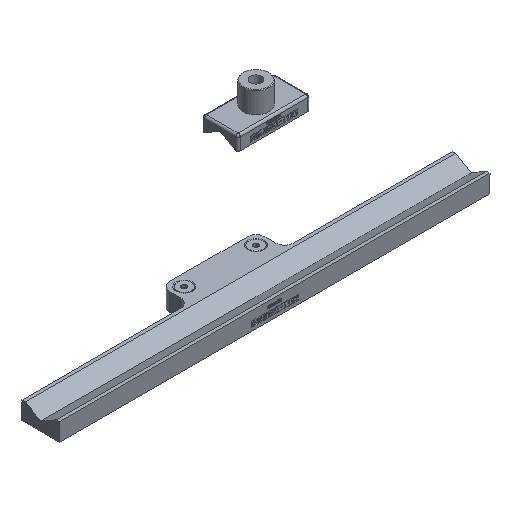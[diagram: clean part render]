
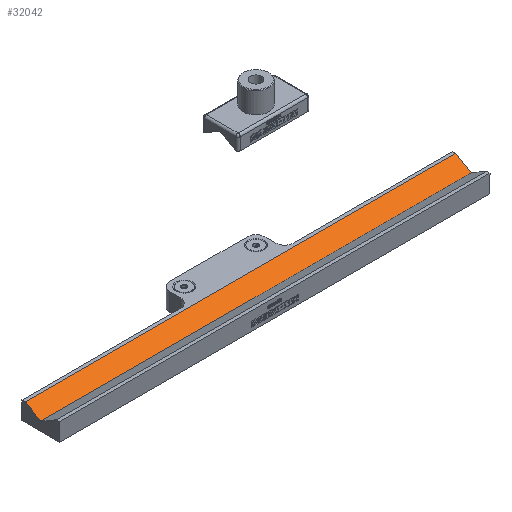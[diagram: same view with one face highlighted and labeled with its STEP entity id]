
A CAD part, isometric view. The second image highlights one B-rep face of the part: STEP entity #32042.
In plain terms, the highlighted planar face has unit normal (0, -0.5, 0.866).
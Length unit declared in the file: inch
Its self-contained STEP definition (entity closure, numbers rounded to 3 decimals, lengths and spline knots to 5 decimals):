
#31744=CARTESIAN_POINT('',(21.54295,-9.89958,-25.74325));
#31745=VERTEX_POINT('',#31744);
#31752=CARTESIAN_POINT('',(33.54295,-9.89958,-25.74325));
#31753=VERTEX_POINT('',#31752);
#31754=CARTESIAN_POINT('',(21.54295,-9.89958,-25.74325));
#31755=DIRECTION('',(1.0,0.0,0.0));
#31756=VECTOR('',#31755,12.);
#31757=LINE('',#31754,#31756);
#31758=EDGE_CURVE('',#31745,#31753,#31757,.T.);
#32012=CARTESIAN_POINT('',(21.54295,-10.3326,-25.99325));
#32013=DIRECTION('',(0.,0.5,-0.866));
#32014=DIRECTION('',(-1.0,0.0,0.0));
#32015=AXIS2_PLACEMENT_3D('',#32012,#32013,#32014);
#32016=PLANE('',#32015);
#32017=CARTESIAN_POINT('',(33.54295,-10.3326,-25.99325));
#32018=VERTEX_POINT('',#32017);
#32019=CARTESIAN_POINT('',(33.54295,-10.3326,-25.99325));
#32020=DIRECTION('',(0.0,0.866,0.5));
#32021=VECTOR('',#32020,0.5);
#32022=LINE('',#32019,#32021);
#32023=EDGE_CURVE('',#32018,#31753,#32022,.T.);
#32024=ORIENTED_EDGE('',*,*,#32023,.T.);
#32025=ORIENTED_EDGE('',*,*,#31758,.F.);
#32026=CARTESIAN_POINT('',(21.54295,-10.3326,-25.99325));
#32027=VERTEX_POINT('',#32026);
#32028=CARTESIAN_POINT('',(21.54295,-10.3326,-25.99325));
#32029=DIRECTION('',(0.0,0.866,0.5));
#32030=VECTOR('',#32029,0.5);
#32031=LINE('',#32028,#32030);
#32032=EDGE_CURVE('',#32027,#31745,#32031,.T.);
#32033=ORIENTED_EDGE('',*,*,#32032,.F.);
#32034=CARTESIAN_POINT('',(21.54295,-10.3326,-25.99325));
#32035=DIRECTION('',(1.0,0.0,0.0));
#32036=VECTOR('',#32035,12.);
#32037=LINE('',#32034,#32036);
#32038=EDGE_CURVE('',#32027,#32018,#32037,.T.);
#32039=ORIENTED_EDGE('',*,*,#32038,.T.);
#32040=EDGE_LOOP('',(#32024,#32025,#32033,#32039));
#32041=FACE_OUTER_BOUND('',#32040,.T.);
#32042=ADVANCED_FACE('',(#32041),#32016,.F.);
